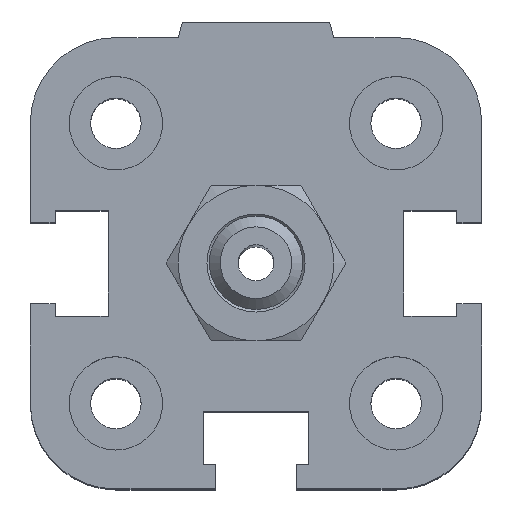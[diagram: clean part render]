
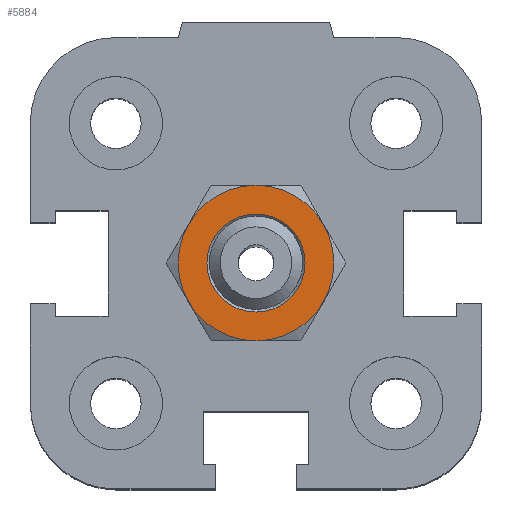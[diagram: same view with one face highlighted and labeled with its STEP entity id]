
A CAD part, top view. The second image highlights one B-rep face of the part: STEP entity #5884.
In plain terms, the highlighted planar face has unit normal (0, 0, 1).
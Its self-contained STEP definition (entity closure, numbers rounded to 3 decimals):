
#5247=CARTESIAN_POINT('',(3.15,0.0,4.0));
#5248=VERTEX_POINT('',#5247);
#5249=CARTESIAN_POINT('',(0.0,0.0,4.0));
#5250=DIRECTION('',(0.0,0.0,-1.0));
#5251=DIRECTION('',(1.0,0.0,0.0));
#5252=AXIS2_PLACEMENT_3D('',#5249,#5250,#5251);
#5253=CIRCLE('',#5252,3.15);
#5254=EDGE_CURVE('',#5248,#5248,#5253,.T.);
#5269=CARTESIAN_POINT('',(-4.33,2.5,4.0));
#5270=VERTEX_POINT('',#5269);
#5284=CARTESIAN_POINT('',(-4.33,-2.5,4.0));
#5285=VERTEX_POINT('',#5284);
#5299=CARTESIAN_POINT('',(0.0,0.0,4.0));
#5300=DIRECTION('',(0.0,0.0,1.0));
#5301=DIRECTION('',(-1.0,0.0,0.0));
#5302=AXIS2_PLACEMENT_3D('',#5299,#5300,#5301);
#5303=CIRCLE('',#5302,5.0);
#5304=EDGE_CURVE('',#5270,#5285,#5303,.T.);
#5316=CARTESIAN_POINT('',(0.0,5.0,4.0));
#5317=VERTEX_POINT('',#5316);
#5344=CARTESIAN_POINT('',(0.0,0.0,4.0));
#5345=DIRECTION('',(0.0,0.0,1.0));
#5346=DIRECTION('',(-1.0,0.0,0.0));
#5347=AXIS2_PLACEMENT_3D('',#5344,#5345,#5346);
#5348=CIRCLE('',#5347,5.0);
#5349=EDGE_CURVE('',#5317,#5270,#5348,.T.);
#5361=CARTESIAN_POINT('',(4.33,2.5,4.0));
#5362=VERTEX_POINT('',#5361);
#5389=CARTESIAN_POINT('',(0.0,0.0,4.0));
#5390=DIRECTION('',(0.0,0.0,1.0));
#5391=DIRECTION('',(-1.0,0.0,0.0));
#5392=AXIS2_PLACEMENT_3D('',#5389,#5390,#5391);
#5393=CIRCLE('',#5392,5.0);
#5394=EDGE_CURVE('',#5362,#5317,#5393,.T.);
#5419=CARTESIAN_POINT('',(4.33,-2.5,4.0));
#5420=VERTEX_POINT('',#5419);
#5421=CARTESIAN_POINT('',(0.0,0.0,4.0));
#5422=DIRECTION('',(0.0,0.0,1.0));
#5423=DIRECTION('',(-1.0,0.0,0.0));
#5424=AXIS2_PLACEMENT_3D('',#5421,#5422,#5423);
#5425=CIRCLE('',#5424,5.0);
#5426=EDGE_CURVE('',#5420,#5362,#5425,.T.);
#5464=CARTESIAN_POINT('',(0.,-5.,4.0));
#5465=VERTEX_POINT('',#5464);
#5466=CARTESIAN_POINT('',(0.0,0.0,4.0));
#5467=DIRECTION('',(0.0,0.0,1.0));
#5468=DIRECTION('',(-1.0,0.0,0.0));
#5469=AXIS2_PLACEMENT_3D('',#5466,#5467,#5468);
#5470=CIRCLE('',#5469,5.0);
#5471=EDGE_CURVE('',#5465,#5420,#5470,.T.);
#5509=CARTESIAN_POINT('',(0.0,0.0,4.0));
#5510=DIRECTION('',(0.0,0.0,1.0));
#5511=DIRECTION('',(-1.0,0.0,0.0));
#5512=AXIS2_PLACEMENT_3D('',#5509,#5510,#5511);
#5513=CIRCLE('',#5512,5.0);
#5514=EDGE_CURVE('',#5285,#5465,#5513,.T.);
#5868=CARTESIAN_POINT('',(0.,0.,4.0));
#5869=DIRECTION('',(0.0,0.0,1.0));
#5870=DIRECTION('',(1.0,0.0,0.0));
#5871=AXIS2_PLACEMENT_3D('',#5868,#5869,#5870);
#5872=PLANE('',#5871);
#5873=ORIENTED_EDGE('',*,*,#5514,.T.);
#5874=ORIENTED_EDGE('',*,*,#5471,.T.);
#5875=ORIENTED_EDGE('',*,*,#5426,.T.);
#5876=ORIENTED_EDGE('',*,*,#5394,.T.);
#5877=ORIENTED_EDGE('',*,*,#5349,.T.);
#5878=ORIENTED_EDGE('',*,*,#5304,.T.);
#5879=EDGE_LOOP('',(#5873,#5874,#5875,#5876,#5877,#5878));
#5880=FACE_OUTER_BOUND('',#5879,.T.);
#5881=ORIENTED_EDGE('',*,*,#5254,.T.);
#5882=EDGE_LOOP('',(#5881));
#5883=FACE_BOUND('',#5882,.T.);
#5884=ADVANCED_FACE('',(#5880,#5883),#5872,.T.);
